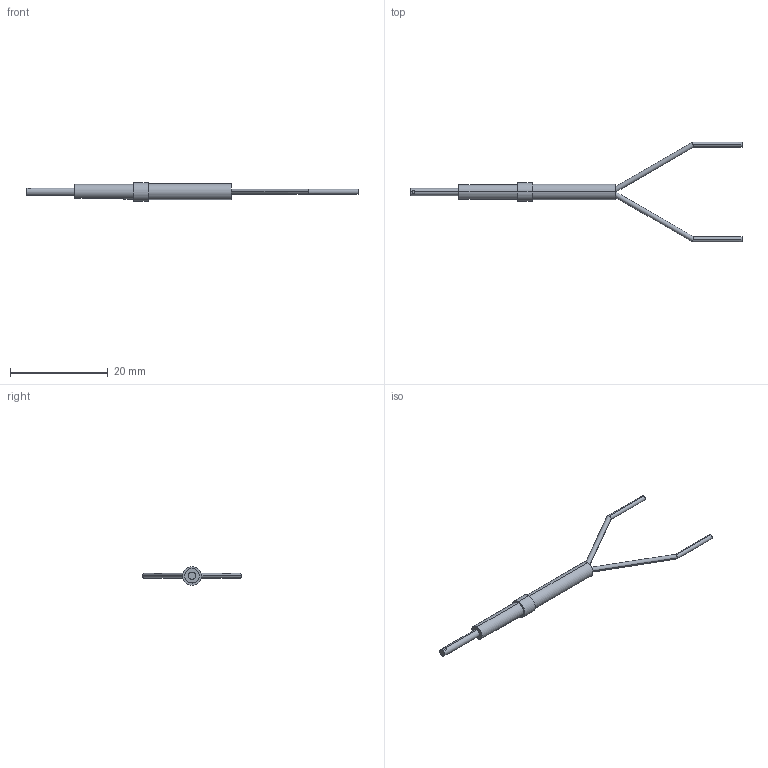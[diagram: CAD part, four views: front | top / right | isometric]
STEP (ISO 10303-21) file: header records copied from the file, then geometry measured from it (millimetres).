
FILE_DESCRIPTION (( 'STEP AP203' ), '1' );
FILE_NAME ('FD-V41.STEP', '2005-09-04T10:23:22', ( '川島良英' ), ( ' ' ), 'SwSTEP 2.0', 'SolidWorks 2004251', '' );
FILE_SCHEMA (( 'CONFIG_CONTROL_DESIGN' ));
Length unit declared in the file: millimetre
Products named in the file (1): FD-V41
Bounding box: 67.92 x 20.39 x 3.8 mm (x, y, z)
Volume: 329.1 mm3; surface area: 622.2 mm2
Topology: 2 solids, 2 shells, 33 faces, 74 edges, 49 vertices
Faces by surface type: cylinder 20, plane 13
Entity records: 1005 total; most frequent: CARTESIAN_POINT 205, DIRECTION 156, ORIENTED_EDGE 148, EDGE_CURVE 74, AXIS2_PLACEMENT_3D 64, VERTEX_POINT 49, EDGE_LOOP 37, ADVANCED_FACE 33
